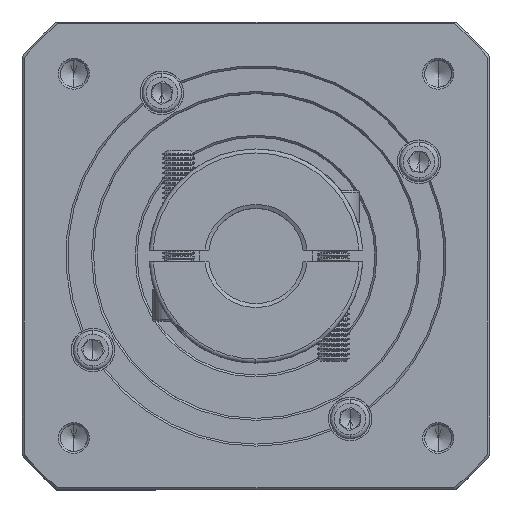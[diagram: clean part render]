
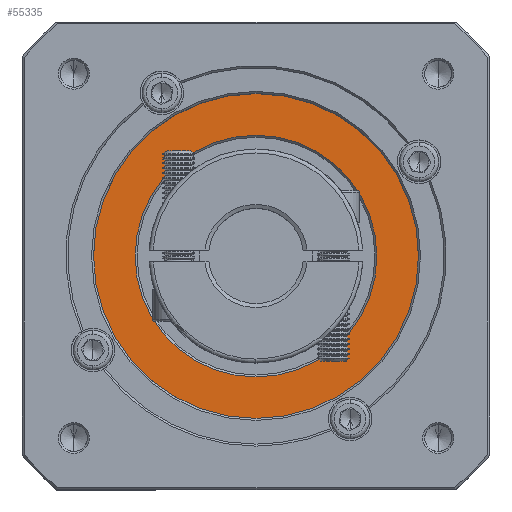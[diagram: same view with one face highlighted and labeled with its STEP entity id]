
A CAD part, top view. The second image highlights one B-rep face of the part: STEP entity #55335.
In plain terms, the highlighted planar face has unit normal (0, 0, 1).
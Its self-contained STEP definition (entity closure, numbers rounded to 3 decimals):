
#1574 = EDGE_CURVE ( 'NONE', #7547, #86246, #43966, .T. ) ;
#2847 = CARTESIAN_POINT ( 'NONE',  ( 49.054, 18.884, -31.658 ) ) ;
#4887 = AXIS2_PLACEMENT_3D ( 'NONE', #9191, #106078, #16690 ) ;
#7547 = VERTEX_POINT ( 'NONE', #25759 ) ;
#9191 = CARTESIAN_POINT ( 'NONE',  ( 49.054, 59.884, -31.658 ) ) ;
#10381 = EDGE_LOOP ( 'NONE', ( #98888, #51596 ) ) ;
#16690 = DIRECTION ( 'NONE',  ( -1., 0., 0. ) ) ;
#18006 = DIRECTION ( 'NONE',  ( 0., 0., 1. ) ) ;
#25759 = CARTESIAN_POINT ( 'NONE',  ( 49.054, 100.884, -31.658 ) ) ;
#32237 = AXIS2_PLACEMENT_3D ( 'NONE', #109440, #132714, #77946 ) ;
#39894 = CARTESIAN_POINT ( 'NONE',  ( 49.054, 59.884, -31.658 ) ) ;
#43956 = FACE_OUTER_BOUND ( 'NONE', #71904, .T. ) ;
#43966 = CIRCLE ( 'NONE', #98668, 41. ) ;
#50462 = DIRECTION ( 'NONE',  ( 0., 0., -1. ) ) ;
#51596 = ORIENTED_EDGE ( 'NONE', *, *, #126496, .T. ) ;
#55335 = ADVANCED_FACE ( 'NONE', ( #43956, #132932 ), #70247, .T. ) ;
#62514 = DIRECTION ( 'NONE',  ( 0., 0., 1. ) ) ;
#65816 = CIRCLE ( 'NONE', #4887, 30.5 ) ;
#66072 = CIRCLE ( 'NONE', #103235, 30.5 ) ;
#67318 = ORIENTED_EDGE ( 'NONE', *, *, #120524, .T. ) ;
#70247 = PLANE ( 'NONE',  #111819 ) ;
#71904 = EDGE_LOOP ( 'NONE', ( #67318, #102097 ) ) ;
#77946 = DIRECTION ( 'NONE',  ( 0., -1., 0. ) ) ;
#86246 = VERTEX_POINT ( 'NONE', #2847 ) ;
#86252 = VERTEX_POINT ( 'NONE', #99776 ) ;
#93173 = DIRECTION ( 'NONE',  ( -1., 0., 0. ) ) ;
#98073 = VERTEX_POINT ( 'NONE', #111123 ) ;
#98668 = AXIS2_PLACEMENT_3D ( 'NONE', #39894, #62514, #104321 ) ;
#98888 = ORIENTED_EDGE ( 'NONE', *, *, #107031, .T. ) ;
#99776 = CARTESIAN_POINT ( 'NONE',  ( 18.554, 59.884, -31.658 ) ) ;
#102097 = ORIENTED_EDGE ( 'NONE', *, *, #1574, .T. ) ;
#103235 = AXIS2_PLACEMENT_3D ( 'NONE', #115262, #50462, #93173 ) ;
#104321 = DIRECTION ( 'NONE',  ( 0., -1., 0. ) ) ;
#106078 = DIRECTION ( 'NONE',  ( 0., 0., -1. ) ) ;
#107031 = EDGE_CURVE ( 'NONE', #86252, #98073, #66072, .T. ) ;
#109440 = CARTESIAN_POINT ( 'NONE',  ( 49.054, 59.884, -31.658 ) ) ;
#111123 = CARTESIAN_POINT ( 'NONE',  ( 79.554, 59.884, -31.658 ) ) ;
#111819 = AXIS2_PLACEMENT_3D ( 'NONE', #113912, #18006, #124158 ) ;
#113912 = CARTESIAN_POINT ( 'NONE',  ( 49.054, 59.884, -31.658 ) ) ;
#115262 = CARTESIAN_POINT ( 'NONE',  ( 49.054, 59.884, -31.658 ) ) ;
#120524 = EDGE_CURVE ( 'NONE', #86246, #7547, #134255, .T. ) ;
#124158 = DIRECTION ( 'NONE',  ( 0., -1., 0. ) ) ;
#126496 = EDGE_CURVE ( 'NONE', #98073, #86252, #65816, .T. ) ;
#132714 = DIRECTION ( 'NONE',  ( 0., 0., 1. ) ) ;
#132932 = FACE_BOUND ( 'NONE', #10381, .T. ) ;
#134255 = CIRCLE ( 'NONE', #32237, 41. ) ;
